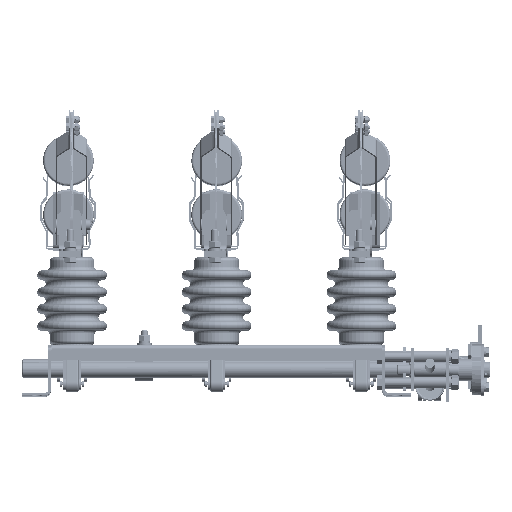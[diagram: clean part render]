
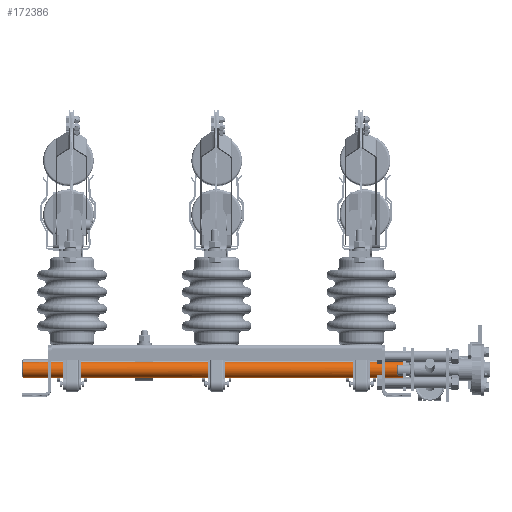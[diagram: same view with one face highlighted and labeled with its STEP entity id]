
A CAD part, top view. The second image highlights one B-rep face of the part: STEP entity #172386.
In plain terms, the highlighted cylindrical face has radius 11 mm (diameter 22 mm), a full revolution.
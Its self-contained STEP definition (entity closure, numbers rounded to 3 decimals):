
#632 = EDGE_CURVE ( 'NONE', #127675, #127675, #32244, .T. ) ;
#3732 = EDGE_LOOP ( 'NONE', ( #11983, #193004 ) ) ;
#6002 = FACE_OUTER_BOUND ( 'NONE', #74346, .T. ) ;
#10711 = EDGE_CURVE ( 'NONE', #58568, #176277, #160148, .T. ) ;
#11983 = ORIENTED_EDGE ( 'NONE', *, *, #10711, .T. ) ;
#16767 = AXIS2_PLACEMENT_3D ( 'NONE', #44368, #163354, #61418 ) ;
#20767 = DIRECTION ( 'NONE',  ( -1., 0., 0. ) ) ;
#32244 = CIRCLE ( 'NONE', #16767, 11. ) ;
#37657 = CARTESIAN_POINT ( 'NONE',  ( 258.378, 36.004, 307.018 ) ) ;
#44368 = CARTESIAN_POINT ( 'NONE',  ( 258.378, 36.004, 296.018 ) ) ;
#44690 = CARTESIAN_POINT ( 'NONE',  ( -267.622, 29.668, 305.01 ) ) ;
#45787 = CYLINDRICAL_SURFACE ( 'NONE', #213267, 11. ) ;
#58568 = VERTEX_POINT ( 'NONE', #206921 ) ;
#61418 = DIRECTION ( 'NONE',  ( 0., 0., 1. ) ) ;
#65467 = DIRECTION ( 'NONE',  ( 1., 0., 0. ) ) ;
#71981 = CARTESIAN_POINT ( 'NONE',  ( 261.378, 36.004, 296.018 ) ) ;
#73105 = CARTESIAN_POINT ( 'NONE',  ( -267.622, 36.004, 296.018 ) ) ;
#74346 = EDGE_LOOP ( 'NONE', ( #102749 ) ) ;
#89100 = DIRECTION ( 'NONE',  ( 0., 0.576, -0.817 ) ) ;
#90229 = DIRECTION ( 'NONE',  ( 0., -0.576, 0.817 ) ) ;
#100010 = CIRCLE ( 'NONE', #100239, 11. ) ;
#100239 = AXIS2_PLACEMENT_3D ( 'NONE', #73105, #192071, #90229 ) ;
#101692 = FACE_OUTER_BOUND ( 'NONE', #3732, .T. ) ;
#102749 = ORIENTED_EDGE ( 'NONE', *, *, #632, .T. ) ;
#127675 = VERTEX_POINT ( 'NONE', #37657 ) ;
#130880 = EDGE_CURVE ( 'NONE', #176277, #58568, #100010, .T. ) ;
#152227 = AXIS2_PLACEMENT_3D ( 'NONE', #167355, #65467, #184438 ) ;
#160148 = CIRCLE ( 'NONE', #152227, 11. ) ;
#163354 = DIRECTION ( 'NONE',  ( -1., 0., 0. ) ) ;
#167355 = CARTESIAN_POINT ( 'NONE',  ( -267.622, 36.004, 296.018 ) ) ;
#172386 = ADVANCED_FACE ( 'NONE', ( #6002, #101692 ), #45787, .T. ) ;
#176277 = VERTEX_POINT ( 'NONE', #44690 ) ;
#184438 = DIRECTION ( 'NONE',  ( 0., 0.576, -0.817 ) ) ;
#192071 = DIRECTION ( 'NONE',  ( 1., 0., 0. ) ) ;
#193004 = ORIENTED_EDGE ( 'NONE', *, *, #130880, .T. ) ;
#206921 = CARTESIAN_POINT ( 'NONE',  ( -267.622, 42.34, 287.026 ) ) ;
#213267 = AXIS2_PLACEMENT_3D ( 'NONE', #71981, #20767, #89100 ) ;
